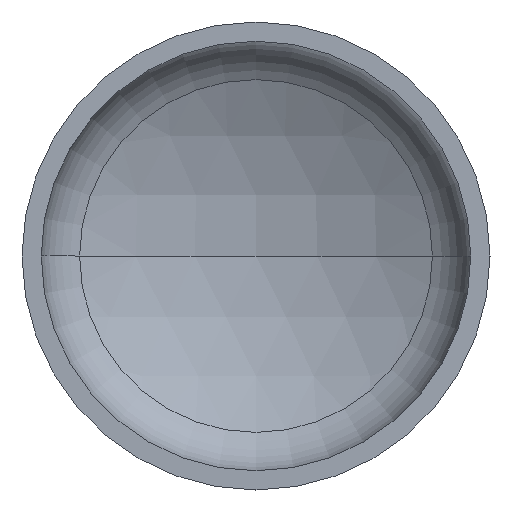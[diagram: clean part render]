
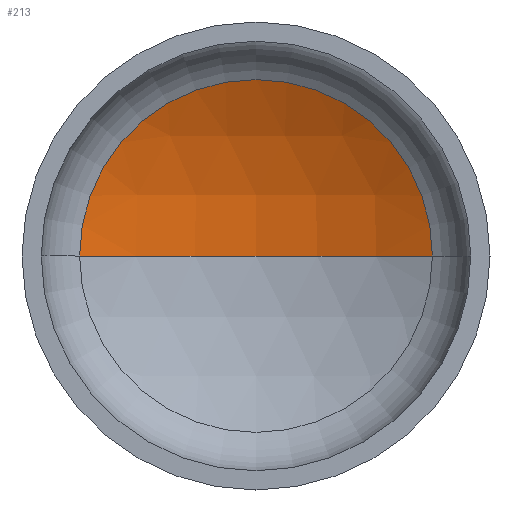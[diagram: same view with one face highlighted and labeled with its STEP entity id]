
A CAD part, front view. The second image highlights one B-rep face of the part: STEP entity #213.
In plain terms, the highlighted spherical face has radius 175 mm.
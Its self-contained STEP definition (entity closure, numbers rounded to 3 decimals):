
#17 = ORIENTED_EDGE ( 'NONE', *, *, #359, .T. ) ;
#19 = EDGE_LOOP ( 'NONE', ( #61, #34, #17 ) ) ;
#34 = ORIENTED_EDGE ( 'NONE', *, *, #181, .T. ) ;
#38 = CIRCLE ( 'NONE', #85, 82.598 ) ;
#43 = VERTEX_POINT ( 'NONE', #322 ) ;
#48 = DIRECTION ( 'NONE',  ( 0., 0., -1. ) ) ;
#51 = CIRCLE ( 'NONE', #128, 175. ) ;
#61 = ORIENTED_EDGE ( 'NONE', *, *, #152, .F. ) ;
#63 = VERTEX_POINT ( 'NONE', #253 ) ;
#65 = VERTEX_POINT ( 'NONE', #405 ) ;
#85 = AXIS2_PLACEMENT_3D ( 'NONE', #155, #350, #193 ) ;
#115 = DIRECTION ( 'NONE',  ( -1., 0., 0. ) ) ;
#119 = CARTESIAN_POINT ( 'NONE',  ( 0., -94.306, 0. ) ) ;
#128 = AXIS2_PLACEMENT_3D ( 'NONE', #232, #256, #258 ) ;
#139 = SPHERICAL_SURFACE ( 'NONE', #208, 175. ) ;
#152 = EDGE_CURVE ( 'NONE', #63, #43, #355, .T. ) ;
#155 = CARTESIAN_POINT ( 'NONE',  ( 0., 59.975, 0. ) ) ;
#181 = EDGE_CURVE ( 'NONE', #63, #65, #51, .T. ) ;
#193 = DIRECTION ( 'NONE',  ( 1., 0., 0. ) ) ;
#208 = AXIS2_PLACEMENT_3D ( 'NONE', #119, #48, #115 ) ;
#213 = ADVANCED_FACE ( 'NONE', ( #409 ), #139, .F. ) ;
#232 = CARTESIAN_POINT ( 'NONE',  ( 0., -94.306, 0. ) ) ;
#253 = CARTESIAN_POINT ( 'NONE',  ( 0., 80.694, 0. ) ) ;
#256 = DIRECTION ( 'NONE',  ( 0., 0., -1. ) ) ;
#258 = DIRECTION ( 'NONE',  ( -1., 0., 0. ) ) ;
#295 = DIRECTION ( 'NONE',  ( 1., 0., 0. ) ) ;
#301 = CARTESIAN_POINT ( 'NONE',  ( 0., -94.306, 0. ) ) ;
#310 = DIRECTION ( 'NONE',  ( 0., 0., 1. ) ) ;
#322 = CARTESIAN_POINT ( 'NONE',  ( -82.598, 59.975, 0. ) ) ;
#350 = DIRECTION ( 'NONE',  ( 0., -1., 0. ) ) ;
#355 = CIRCLE ( 'NONE', #403, 175. ) ;
#359 = EDGE_CURVE ( 'NONE', #65, #43, #38, .T. ) ;
#403 = AXIS2_PLACEMENT_3D ( 'NONE', #301, #310, #295 ) ;
#405 = CARTESIAN_POINT ( 'NONE',  ( 82.598, 59.975, 0. ) ) ;
#409 = FACE_OUTER_BOUND ( 'NONE', #19, .T. ) ;
